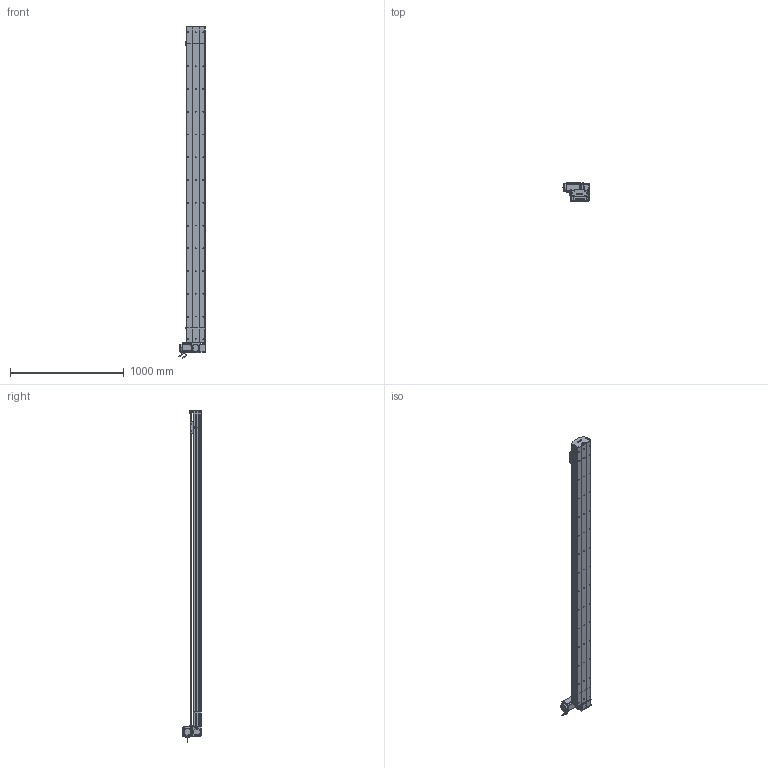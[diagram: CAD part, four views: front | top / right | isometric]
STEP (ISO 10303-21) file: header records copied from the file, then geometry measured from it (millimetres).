
FILE_DESCRIPTION (( 'STEP AP214' ), '1' );
FILE_NAME ('D17 TBN LT S2500.STEP', '2010-06-30T13:00:11', ( 'Conseil Régional Haute-Normandie' ), ( 'Conseil Régional Haute-Normandie' ), 'SwSTEP 2.0', 'SolidWorks 2010', '' );
FILE_SCHEMA (( 'AUTOMOTIVE_DESIGN' ));
Length unit declared in the file: millimetre
Products named in the file (40): guide D17; Chariot D17 TBN; chariot D17 TBN; vis M5 L25_Default; vis M5 L12_Default; vis M5 L8 90°_Default; couvercle D17B_Default; Rail D17B; tete d''axe poulie D17B; corp tail D17B+100_Default; Couroie tail D17B_Default; poulie tail_Default; plaque de  bout tail D17B_Default; Tail D17B+100_Default; Vis M5 L16-2_Default; vis M5 L16_Default; Plaque racord D17_Default; D17 TBN LT S2500; corp D17B 2500_Default; Couroie+ rail D17 Course 2500 ; course 2500 D17B_Default; corpl head D17 _Default; Head LT D17B_Default; couvercle D17B course L2500_Default; Arbre+rail head D17B; plaque de  bout head D17B LT_Default; couvercle D17B head_Default; poulie head_Default; vis M5 L5_Default; cache D17_Default; Renvoi LT_Default; couroie head D17_Default; cache arbre D17_Default; corps 90BLDC125A-640; avant 90BLDC125A-640; Moteur motionking 90BLDC125A-640; vis M5 L70_Default; Conecteur_Default; Conecteur2_Default; codeur 90BLDC125-640
Assembly tree (66 placements, depth 4):
  D17 TBN LT S2500
    Head LT D17B_Default
      Plaque racord D17_Default
      vis M5 L12_Default  x8
      vis M5 L5_Default  x4
      vis M5 L70_Default  x4
      poulie head_Default
      Arbre+rail head D17B
      couvercle D17B head_Default
      Vis M5 L16-2_Default  x4
      cache D17_Default  x2
      corpl head D17 _Default
      vis M5 L16_Default  x2
      cache arbre D17_Default
      vis M5 L25_Default  x2
      Moteur motionking 90BLDC125A-640
        codeur 90BLDC125-640
        Conecteur2_Default
        avant 90BLDC125A-640
        corps 90BLDC125A-640
        Conecteur_Default
      Renvoi LT_Default
      plaque de  bout head D17B LT_Default
      couroie head D17_Default
    course 2500 D17B_Default
      corp D17B 2500_Default
      Couroie+ rail D17 Course 2500 
      couvercle D17B course L2500_Default
    chariot D17 TBN
      guide D17  x2
      Chariot D17 TBN
    Tail D17B+100_Default
      vis M5 L12_Default  x4
      plaque de  bout tail D17B_Default
      tete d''axe poulie D17B
      vis M5 L8 90°_Default  x2
      Couroie tail D17B_Default
      couvercle D17B_Default
      corp tail D17B+100_Default
      vis M5 L25_Default  x2
      Rail D17B
      poulie tail_Default
Bounding box: 245.2 x 166.15 x 2917.95 mm (x, y, z)
Volume: 16730726.9 mm3; surface area: 4862192 mm2
Topology: 89 solids, 89 shells, 2631 faces, 6755 edges, 4354 vertices
Faces by surface type: plane 1537, cylinder 797, bspline 136, cone 80, torus 77, sphere 4
Entity records: 85605 total; most frequent: CARTESIAN_POINT 25401, ORIENTED_EDGE 10682, DIRECTION 10078, EDGE_CURVE 5341, VECTOR 3508, LINE 3508, VERTEX_POINT 3498, AXIS2_PLACEMENT_3D 3285
